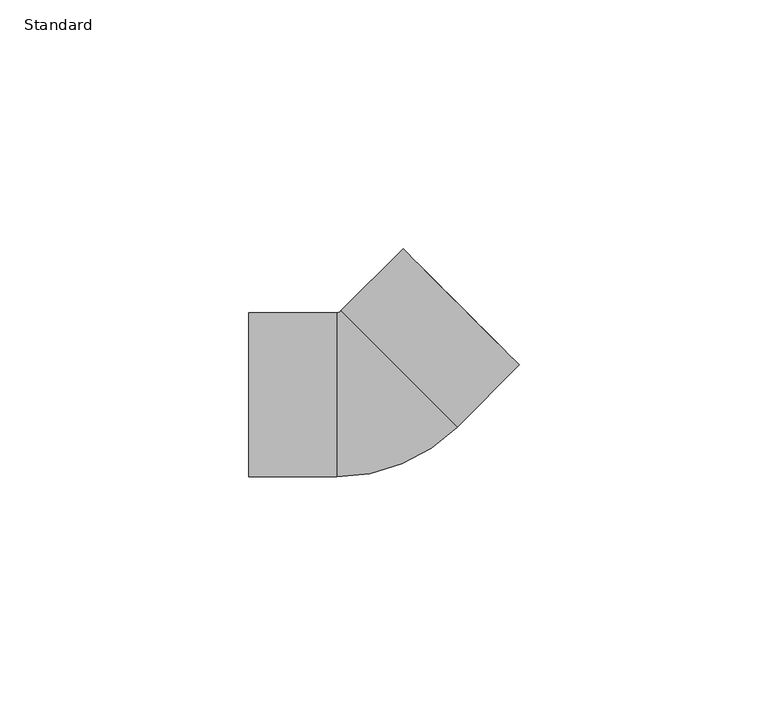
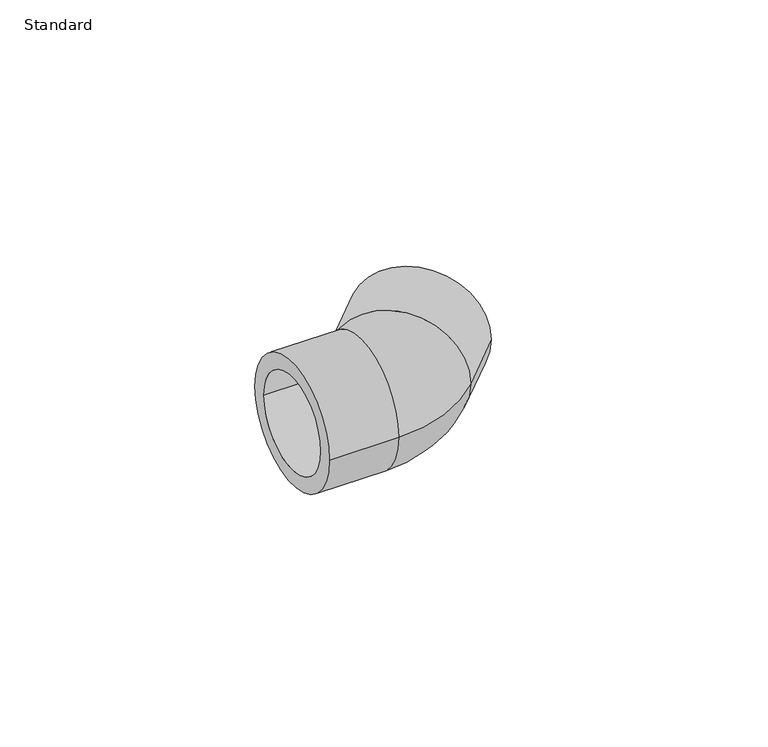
"""IFC4 building model written with IfcOpenShell, lengths in millimetres: pipe fitting geometry, Durapipe_PipeFitting_PVC_Elbow45deg : Standard."""

from ifc_helpers import new_model, si_unit, point, frame, origin, place, context, project, spatial, polyline, circle_curve, ellipse_curve, trimmed, source, transform, mapped, element, save
from ifc_brep_helpers import plane_surface, cylinder_surface, revolved_surface, advanced_brep


def standard_f4dc8211(model_context):
    return source(origin(), model_context, "Body", "AdvancedBrep", [
        advanced_brep(
        [(-25.0, -16.5, 0.0), (-25.0, 16.5, 0.0), (-25.0, -12.5, 0.0), (-25.0, 12.5, 0.0), (-7.3345238, -16.5, 0.0), (-7.3345238, 16.5, 0.0), (16.8535534, -6.4809704, 0.0), (-6.4809704, 16.8535534, 0.0), (29.3449314, 6.0104076, 0.0), (6.0104076, 29.3449314, 0.0), (8.8388348, 26.5165043, 0.0), (26.5165043, 8.8388348, 0.0), (-6.0, 12.5, 0.0), (-6.0, -12.5, 0.0), (-6.0, 0.0, 0.0), (-4.5961941, 13.0814755, 0.0), (4.2426407, 4.2426407, 0.0), (13.0814755, -4.5961941, 0.0)],
        [
            (0, 1, circle_curve(frame((-25.0, 0.0, 0.0), z_axis=(-1.0, 0.0, 0.0), x_axis=(0.0, 1.0, 0.0)), 16.5)),
            (1, 0, circle_curve(frame((-25.0, 0.0, 0.0), z_axis=(-1.0, 0.0, 0.0), x_axis=(0.0, 1.0, 0.0)), 16.5)),
            (2, 3, circle_curve(frame((-25.0, 0.0, 0.0), z_axis=(1.0, 0.0, 0.0), x_axis=(0.0, -1.0, 0.0)), 12.5)),
            (3, 2, circle_curve(frame((-25.0, 0.0, 0.0), z_axis=(1.0, 0.0, 0.0), x_axis=(0.0, -1.0, 0.0)), 12.5)),
            (0, 4),
            (4, 5, circle_curve(frame((-7.3345238, 0.0, 0.0), z_axis=(-1.0, 0.0, 0.0), x_axis=(0.0, 1.0, 0.0)), 16.5)),
            (5, 1),
            (5, 4, circle_curve(frame((-7.3345238, 0.0, 0.0), z_axis=(-1.0, 0.0, 0.0), x_axis=(0.0, 1.0, 0.0)), 16.5)),
            (4, 6, circle_curve(frame((-7.3345238, 17.7071068, 0.0), z_axis=(0.0, 0.0, 1.0), x_axis=(0.0, -1.0, 0.0)), 34.2071068)),
            (6, 7, circle_curve(frame((5.1862915, 5.1862915, 0.0), z_axis=(-0.7071067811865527, -0.7071067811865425, 0.0), x_axis=(-0.7071067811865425, 0.7071067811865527, 0.0)), 16.5)),
            (7, 5, circle_curve(frame((-7.3345238, 17.7071068, 0.0), z_axis=(0.0, 0.0, -1.0), x_axis=(0.0, -1.0, 0.0)), 1.2071068)),
            (7, 6, circle_curve(frame((5.1862915, 5.1862915, 0.0), z_axis=(-0.707106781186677, -0.7071067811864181, 0.0), x_axis=(-0.7071067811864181, 0.707106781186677, 0.0)), 16.5)),
            (8, 9, circle_curve(frame((17.6776695, 17.6776695, 0.0), z_axis=(0.7071067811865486, 0.7071067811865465, 0.0), x_axis=(-0.7071067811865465, 0.7071067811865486, 0.0)), 16.5)),
            (9, 8, circle_curve(frame((17.6776695, 17.6776695, 0.0), z_axis=(0.7071067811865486, 0.7071067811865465, 0.0), x_axis=(-0.7071067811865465, 0.7071067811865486, 0.0)), 16.5)),
            (10, 11, circle_curve(frame((17.6776695, 17.6776695, 0.0), z_axis=(-0.707106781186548, -0.7071067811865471, 0.0), x_axis=(0.7071067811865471, -0.707106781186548, 0.0)), 12.5)),
            (11, 10, circle_curve(frame((17.6776695, 17.6776695, 0.0), z_axis=(-0.707106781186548, -0.7071067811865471, 0.0), x_axis=(0.7071067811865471, -0.707106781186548, 0.0)), 12.5)),
            (6, 8),
            (9, 7),
            (12, 3),
            (2, 13),
            (13, 12, circle_curve(frame((-6.0, 0.0, 0.0), z_axis=(1.0, 0.0, 0.0), x_axis=(0.0, -1.0, 0.0)), 12.5)),
            (12, 13, circle_curve(frame((-6.0, 0.0, 0.0), z_axis=(1.0, 0.0, 0.0), x_axis=(0.0, -1.0, 0.0)), 12.5)),
            (13, 14),
            (14, 12),
            (15, 16),
            (16, 17),
            (17, 15, circle_curve(frame((4.2426407, 4.2426407, 0.0), z_axis=(0.707106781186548, 0.7071067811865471, 0.0), x_axis=(0.7071067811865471, -0.707106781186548, 0.0)), 12.5)),
            (15, 17, circle_curve(frame((4.2426407, 4.2426407, 0.0), z_axis=(0.707106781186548, 0.7071067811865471, 0.0), x_axis=(0.7071067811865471, -0.707106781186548, 0.0)), 12.5)),
            (17, 11),
            (10, 15),
        ],
        [
            plane_surface(frame((-25.0, 0.0, 0.0), z_axis=(-1.0, 0.0, 0.0), x_axis=(0.0, 0.0, 1.0))),
            cylinder_surface(frame((-25.0, 0.0, 0.0), z_axis=(-1.0, 0.0, 0.0), x_axis=(0.0, 1.0, 0.0)), 16.5),
            revolved_surface(trimmed(ellipse_curve(frame((-7.3345238, 0.0, 0.0), z_axis=(-1.0, 0.0, 0.0), x_axis=(0.0, 1.0, 0.0)), 16.5, 16.5), [point((-7.3345238, -16.5, 0.0))], [point((-7.3345238, 16.5, 0.0))], True, "CARTESIAN"), (-7.3345238, 17.7071068, 0.0), (0.0, 0.0, 1.0)),
            revolved_surface(trimmed(ellipse_curve(frame((-7.3345238, 0.0, 0.0), z_axis=(-1.0, 0.0, 0.0), x_axis=(0.0, 1.0, 0.0)), 16.5, 16.5), [point((-7.3345238, 16.5, 0.0))], [point((-7.3345238, -16.5, 0.0))], True, "CARTESIAN"), (-7.3345238, 17.7071068, 0.0), (0.0, 0.0, 1.0)),
            plane_surface(frame((17.6776695, 17.6776695, 0.0), z_axis=(0.7071067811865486, 0.7071067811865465, 0.0), x_axis=(0.0, 0.0, 1.0))),
            cylinder_surface(frame((5.1862915, 5.1862915, 0.0), z_axis=(-0.7071067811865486, -0.7071067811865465, 0.0), x_axis=(-0.7071067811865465, 0.7071067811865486, 0.0)), 16.5),
            revolved_surface(polyline([(-6.0, -12.5, 0.0), (-25.0, -12.5, 0.0)]), (2000.0, 0.0, 0.0), (1.0, 0.0, 0.0)),
            plane_surface(frame((-6.0, 0.0, 0.0), z_axis=(-1.0, 0.0, 0.0), x_axis=(0.0, -1.0, 0.0))),
            plane_surface(frame((4.2426407, 4.2426407, 0.0), z_axis=(0.707106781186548, 0.7071067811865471, 0.0), x_axis=(0.7071067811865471, -0.707106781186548, 0.0))),
            revolved_surface(polyline([(26.516504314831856, 8.838834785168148, 0.0), (13.081475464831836, -4.596194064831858, 0.0)]), (0.0, 0.0, 0.0), (0.707106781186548, 0.7071067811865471, 0.0)),
        ],
        [
            (0, [[1, 2], [3, 4]]),
            (1, [[-1, 5, 6, 7]]),
            (1, [[-2, -7, 8, -5]]),
            (2, [[-6, 9, 10, 11]]),
            (3, [[-8, -11, 12, -9]]),
            (4, [[13, 14], [15, 16]]),
            (5, [[-10, 17, -14, 18]]),
            (5, [[-12, -18, -13, -17]]),
            (6, [[19, -3, 20, 21]]),
            (6, [[-19, 22, -20, -4]]),
            (7, [[-21, 23, 24]]),
            (7, [[-22, -24, -23]]),
            (8, [[25, 26, 27]]),
            (8, [[-25, 28, -26]]),
            (9, [[-27, 29, -15, 30]]),
            (9, [[-28, -30, -16, -29]]),
        ],
    ),
    ])


if __name__ == "__main__":
    model = new_model("IFC4")
    model_context = context("Model", 3, world=origin())
    ifc_project = project(units=[si_unit("LENGTHUNIT", "METRE", prefix="MILLI")], contexts=[model_context])
    site = spatial("IfcSite", under=ifc_project)
    building = spatial("IfcBuilding", under=site)
    placement = place(None, origin())
    standard_shape = standard_f4dc8211(model_context)
    element("IfcPipeFitting", 1, ObjectType="Durapipe_PipeFitting_PVC_Elbow45deg : Standard", at=placement, inside=building, context=model_context, shape_type="MappedRepresentation", body=[
        mapped(standard_shape, transform((0.0, 0.0, 0.0), x_axis=(1.0, 0.0, 0.0), y_axis=(0.0, 1.0, 0.0), z_axis=(0.0, 0.0, 1.0))),
    ])
    save(model, "model.ifc")
